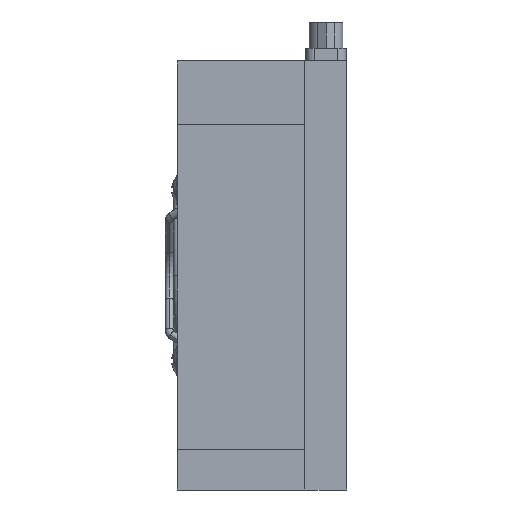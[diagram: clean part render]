
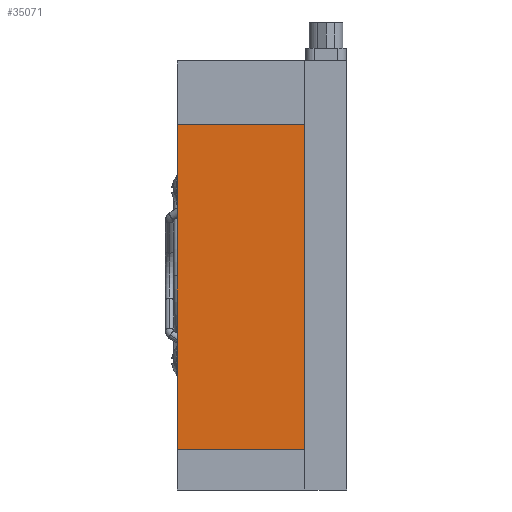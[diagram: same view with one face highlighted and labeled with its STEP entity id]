
A CAD part, left-side view. The second image highlights one B-rep face of the part: STEP entity #35071.
In plain terms, the highlighted planar face has unit normal (-1, 0, 0).
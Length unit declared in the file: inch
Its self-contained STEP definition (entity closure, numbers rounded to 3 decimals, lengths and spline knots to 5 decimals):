
#852 = VECTOR ( 'NONE', #16745, 39.37008 ) ;
#1763 = LINE ( 'NONE', #20509, #9027 ) ;
#2239 = DIRECTION ( 'NONE',  ( 0., 0., 1. ) ) ;
#2389 = DIRECTION ( 'NONE',  ( 0., 0., 1. ) ) ;
#4103 = VECTOR ( 'NONE', #24726, 39.37008 ) ;
#5467 = VECTOR ( 'NONE', #2389, 39.37008 ) ;
#7162 = ORIENTED_EDGE ( 'NONE', *, *, #24657, .F. ) ;
#7975 = DIRECTION ( 'NONE',  ( -1., 0., 0. ) ) ;
#8182 = CARTESIAN_POINT ( 'NONE',  ( 0.035, 0.31, -0.17 ) ) ;
#9027 = VECTOR ( 'NONE', #17417, 39.37008 ) ;
#9522 = VERTEX_POINT ( 'NONE', #20811 ) ;
#10569 = ORIENTED_EDGE ( 'NONE', *, *, #19835, .T. ) ;
#10623 = ORIENTED_EDGE ( 'NONE', *, *, #12480, .F. ) ;
#11571 = CARTESIAN_POINT ( 'NONE',  ( 0.035, 0.31, -0.17 ) ) ;
#12480 = EDGE_CURVE ( 'NONE', #9522, #15626, #29437, .T. ) ;
#14619 = LINE ( 'NONE', #11571, #5467 ) ;
#15481 = ORIENTED_EDGE ( 'NONE', *, *, #29158, .F. ) ;
#15587 = CARTESIAN_POINT ( 'NONE',  ( 0.035, 1.25, 2.53 ) ) ;
#15626 = VERTEX_POINT ( 'NONE', #15587 ) ;
#16070 = CARTESIAN_POINT ( 'NONE',  ( 0.035, 0.31, 2.53 ) ) ;
#16745 = DIRECTION ( 'NONE',  ( 0., 0., 1. ) ) ;
#17417 = DIRECTION ( 'NONE',  ( 0., 1., 0. ) ) ;
#18761 = VERTEX_POINT ( 'NONE', #16070 ) ;
#19835 = EDGE_CURVE ( 'NONE', #31795, #18761, #14619, .T. ) ;
#20352 = EDGE_LOOP ( 'NONE', ( #7162, #10623, #15481, #10569 ) ) ;
#20509 = CARTESIAN_POINT ( 'NONE',  ( 0.035, 0.31, 0.13 ) ) ;
#20597 = PLANE ( 'NONE',  #21692 ) ;
#20811 = CARTESIAN_POINT ( 'NONE',  ( 0.035, 1.25, 0.13 ) ) ;
#21687 = LINE ( 'NONE', #40355, #4103 ) ;
#21692 = AXIS2_PLACEMENT_3D ( 'NONE', #8182, #7975, #2239 ) ;
#23086 = CARTESIAN_POINT ( 'NONE',  ( 0.035, 1.25, -0.17 ) ) ;
#23649 = FACE_OUTER_BOUND ( 'NONE', #20352, .T. ) ;
#24657 = EDGE_CURVE ( 'NONE', #15626, #18761, #21687, .T. ) ;
#24726 = DIRECTION ( 'NONE',  ( 0., -1., 0. ) ) ;
#29158 = EDGE_CURVE ( 'NONE', #31795, #9522, #1763, .T. ) ;
#29437 = LINE ( 'NONE', #23086, #852 ) ;
#31795 = VERTEX_POINT ( 'NONE', #40111 ) ;
#35071 = ADVANCED_FACE ( 'NONE', ( #23649 ), #20597, .T. ) ;
#40111 = CARTESIAN_POINT ( 'NONE',  ( 0.035, 0.31, 0.13 ) ) ;
#40355 = CARTESIAN_POINT ( 'NONE',  ( 0.035, 0.31, 2.53 ) ) ;
